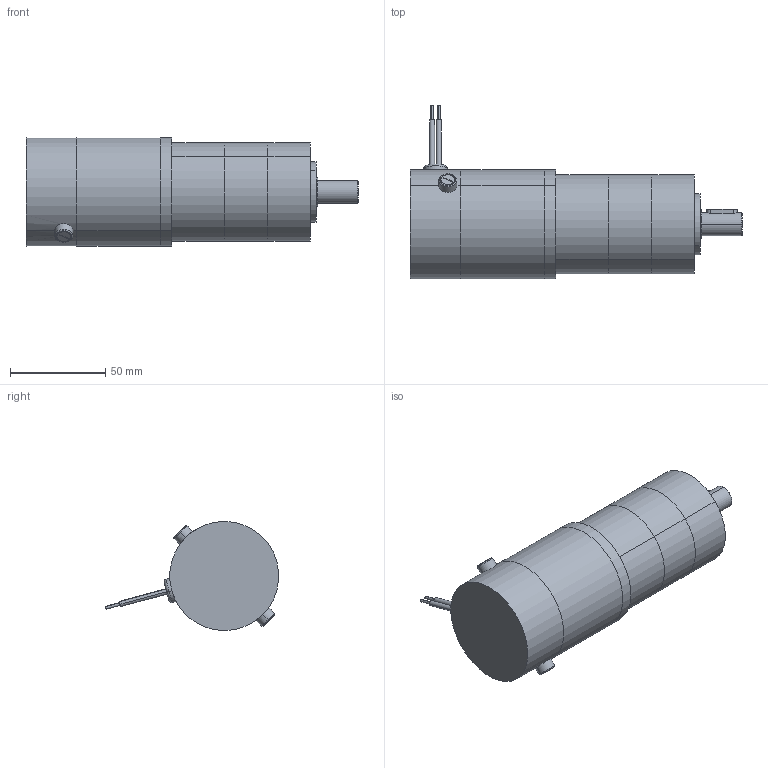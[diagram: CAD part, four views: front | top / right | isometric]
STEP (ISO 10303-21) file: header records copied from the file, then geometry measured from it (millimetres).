
FILE_DESCRIPTION (( 'STEP AP203' ), '1' );
FILE_NAME ('d22301gp1.step', '2018-12-07T19:14:30', ( '' ), ( '' ), 'SwSTEP 2.0', 'SolidWorks 2017', '' );
FILE_SCHEMA (( 'CONFIG_CONTROL_DESIGN' ));
Length unit declared in the file: inch
Products named in the file (1): d22301gp1
Bounding box: 174.1 x 90.76 x 56.93 mm (x, y, z)
Volume: 351956.6 mm3; surface area: 71049.7 mm2
Topology: 17 solids, 17 shells, 324 faces, 689 edges, 428 vertices
Faces by surface type: cylinder 136, plane 133, cone 45, torus 6, sphere 4
Entity records: 8991 total; most frequent: CARTESIAN_POINT 1686, DIRECTION 1656, ORIENTED_EDGE 1346, EDGE_CURVE 673, AXIS2_PLACEMENT_3D 668, VERTEX_POINT 428, EDGE_LOOP 389, CIRCLE 343
